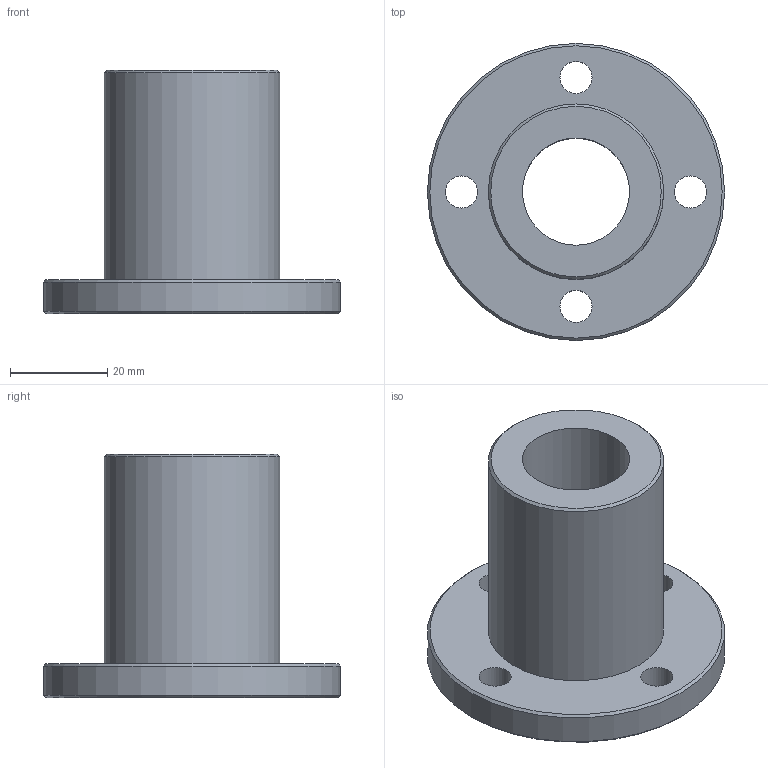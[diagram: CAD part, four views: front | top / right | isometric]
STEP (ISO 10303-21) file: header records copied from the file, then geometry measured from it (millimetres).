
FILE_DESCRIPTION(('STEP AP203'),'1');
FILE_NAME('//192.168.1.1/share/s-4 技術開発/s-4-4_CAD/s-4-4-3_見直し済み/018 修正済み/TMFON/TMFON_TOP/TMFON-22R.step','2022-02-08T05:36:24',(' '),(' '),'Spatial InterOp 3D',' ',' ');
FILE_SCHEMA(('CONFIG_CONTROL_DESIGN'));
Length unit declared in the file: millimetre
Products named in the file (1): 1
Bounding box: 61 x 61 x 50 mm (x, y, z)
Volume: 44199.7 mm3; surface area: 14905.6 mm2
Topology: 1 solids, 1 shells, 13 faces, 27 edges, 17 vertices
Faces by surface type: cylinder 7, plane 3, cone 3
Full cylindrical faces by diameter (mm): 6.6 x4, 22 x1, 36 x1, 61 x1
Entity records: 368 total; most frequent: DIRECTION 62, CARTESIAN_POINT 48, EDGE_LOOP 34, ORIENTED_EDGE 34, AXIS2_PLACEMENT_3D 31, FACE_OUTER_BOUND 20, EDGE_CURVE 17, VERTEX_POINT 17
